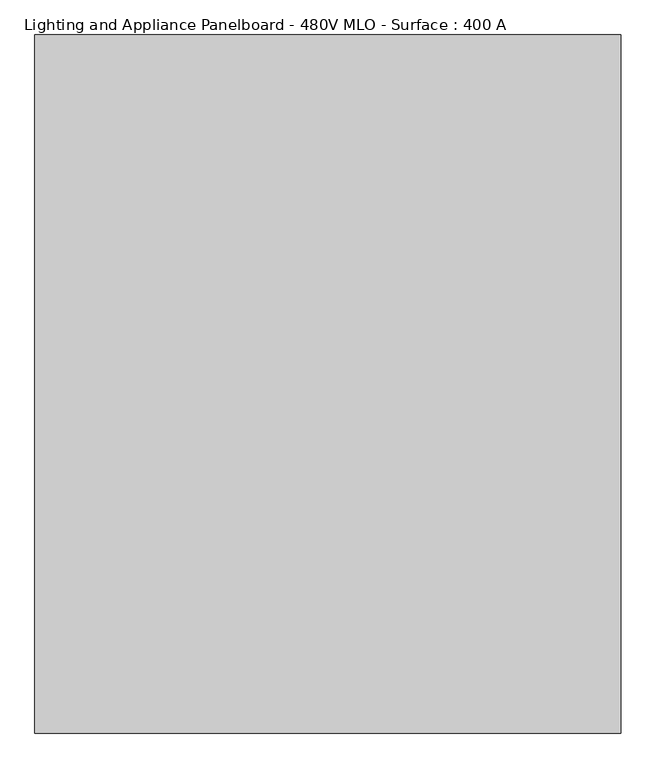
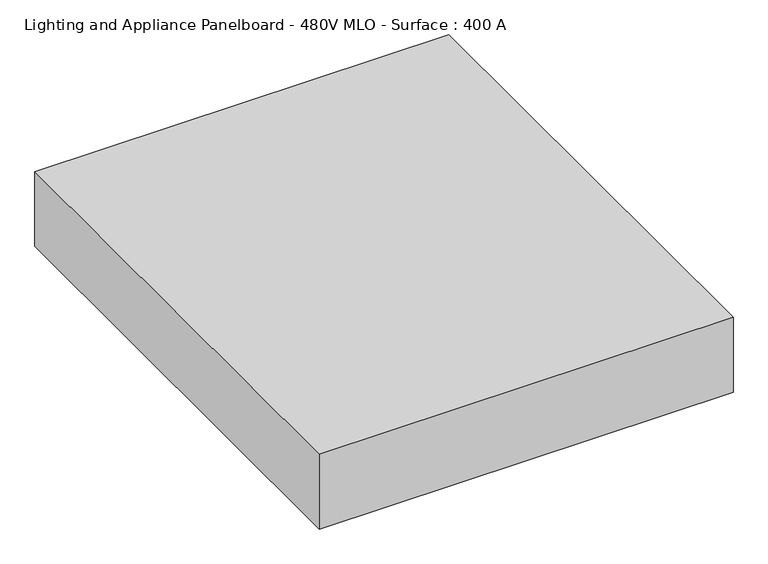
"""IFC4 building model written with IfcOpenShell, lengths in millimetres: proxy geometry, Lighting and Appliance Panelboard - 480V MLO - Surface : 400 A."""

import ifcopenshell
import ifcopenshell.guid

model = None  # the IFC model being written
_history = None  # IfcOwnerHistory: only IFC2X3 demands one
_inside = {}  # id of a spatial element -> (the spatial element, [elements in it])
_under = {}  # id of a project, library or spatial element -> (it, [spatial elements below it])
_declared = {}  # id of a project -> (the project, [libraries it declares])
_typed = {}  # id of a type object -> (the type object, [elements of that type])
_made_of = {}  # id of a material, layer set ... -> (it, [elements and type objects made of it])


def new_model(schema):
    """Start an empty IFC model of exactly this schema.

    Asked for "IFC4X3", IfcOpenShell would pick the latest addendum, in which some entities
    have other attributes; the version numbers below select the first issue.
    IFC2X3 requires an IfcOwnerHistory on every rooted entity: one is made here for all.
    """
    global model, _history
    if schema == "IFC4X3":
        model = ifcopenshell.file(schema_version=(4, 3, 0, 0))
    else:
        model = ifcopenshell.file(schema=schema)
    _inside.clear()
    _under.clear()
    _declared.clear()
    _typed.clear()
    _made_of.clear()
    _history = None
    if model.schema == "IFC2X3":
        org = make("IfcOrganization", Name="unknown")
        user = make(
            "IfcPersonAndOrganization",
            ThePerson=make("IfcPerson", FamilyName="unknown"),
            TheOrganization=org,
        )
        app = make(
            "IfcApplication",
            ApplicationDeveloper=org,
            Version="unknown",
            ApplicationFullName="unknown",
            ApplicationIdentifier="unknown",
        )
        _history = make(
            "IfcOwnerHistory",
            OwningUser=user,
            OwningApplication=app,
            ChangeAction="ADDED",
            CreationDate=0,
        )
    return model


def make(cls, **values):
    """One entity of the class cls with the attributes given. An attribute that is None is left unset."""
    return model.create_entity(
        cls, **{name: value for name, value in values.items() if value is not None}
    )


def rooted(cls, **values):
    """An entity with a GlobalId (a new one), such as an element, a storey or a relation."""
    return make(cls, GlobalId=ifcopenshell.guid.new(), OwnerHistory=_history, **values)


def si_unit(unit_type, name, prefix=None):
    """IfcSIUnit, for example si_unit("LENGTHUNIT", "METRE", prefix="MILLI")."""
    return make("IfcSIUnit", UnitType=unit_type, Prefix=prefix, Name=name)


def assignment(units):
    """IfcUnitAssignment: the units of a project."""
    return None if units is None else make("IfcUnitAssignment", Units=units)


def point(xyz):
    """IfcCartesianPoint."""
    return None if xyz is None else make("IfcCartesianPoint", Coordinates=xyz)


def direction(xyz):
    """IfcDirection."""
    return None if xyz is None else make("IfcDirection", DirectionRatios=xyz)


def frame(location, z_axis=None, x_axis=None):
    """IfcAxis2Placement3D, a coordinate frame: its origin and axes. An axis left out is left unset."""
    return make(
        "IfcAxis2Placement3D",
        Location=point(location),
        Axis=direction(z_axis),
        RefDirection=direction(x_axis),
    )


def origin():
    """The frame at (0, 0, 0) with its axes left unset."""
    return frame((0.0, 0.0, 0.0))


def origin_with_axes():
    """The frame at (0, 0, 0) with the z axis (0, 0, 1) and the x axis (1, 0, 0) written out."""
    return frame((0.0, 0.0, 0.0), z_axis=(0.0, 0.0, 1.0), x_axis=(1.0, 0.0, 0.0))


def place(relative_to, where):
    """IfcLocalPlacement: puts the frame where relative to a parent placement (None: the world)."""
    return make(
        "IfcLocalPlacement", PlacementRelTo=relative_to, RelativePlacement=where
    )


def context(
    kind, dimensions, precision=None, world=None, true_north=None, identifier=None
):
    """IfcGeometricRepresentationContext, for example the 3D "Model" context."""
    return make(
        "IfcGeometricRepresentationContext",
        ContextIdentifier=identifier,
        ContextType=kind,
        CoordinateSpaceDimension=dimensions,
        Precision=precision,
        WorldCoordinateSystem=world,
        TrueNorth=true_north,
    )


def project(units=None, contexts=None):
    """IfcProject with its units and contexts."""
    return rooted(
        "IfcProject",
        Name="project",
        RepresentationContexts=contexts,
        UnitsInContext=assignment(units),
    )


def spatial(cls, under=None, at=None, **own):
    """A site, building, storey or space (cls), placed at a placement, below another one or the project."""
    s = rooted(cls, ObjectPlacement=at, **own)
    if under is not None:
        _under.setdefault(under.id(), (under, []))[1].append(s)
    return s


def polyline(points):
    """IfcPolyline through the points."""
    return make("IfcPolyline", Points=[point(p) for p in points])


def outline(outer, holes=None, kind="AREA"):
    """IfcArbitraryClosedProfileDef: a profile drawn as a closed curve; with holes, ...WithVoids."""
    if holes is None:
        return make("IfcArbitraryClosedProfileDef", ProfileType=kind, OuterCurve=outer)
    return make(
        "IfcArbitraryProfileDefWithVoids",
        ProfileType=kind,
        OuterCurve=outer,
        InnerCurves=holes,
    )


def extrude(swept, where, along, depth):
    """IfcExtrudedAreaSolid: the profile swept, set in the frame where, extruded along a direction by depth."""
    return make(
        "IfcExtrudedAreaSolid",
        SweptArea=swept,
        Position=where,
        ExtrudedDirection=direction(along),
        Depth=depth,
    )


def shape(context_of_items, identifier, shape_type, items):
    """IfcShapeRepresentation: the items that make up one representation, for example the "Body"."""
    return make(
        "IfcShapeRepresentation",
        ContextOfItems=context_of_items,
        RepresentationIdentifier=identifier,
        RepresentationType=shape_type,
        Items=items,
    )


def source(mapping_origin, context_of_items, identifier, shape_type, items):
    """IfcRepresentationMap: a shape defined once, which mapped items show again and again."""
    return make(
        "IfcRepresentationMap",
        MappingOrigin=mapping_origin,
        MappedRepresentation=shape(context_of_items, identifier, shape_type, items),
    )


def transform(
    local_origin,
    x_axis=None,
    y_axis=None,
    z_axis=None,
    scale=None,
    scale2=None,
    scale3=None,
    uniform=True,
):
    """IfcCartesianTransformationOperator3D, or its non-uniform kind. x_axis, y_axis, z_axis: its Axis1, 2, 3."""
    if uniform:
        return make(
            "IfcCartesianTransformationOperator3D",
            Axis1=direction(x_axis),
            Axis2=direction(y_axis),
            LocalOrigin=point(local_origin),
            Scale=scale,
            Axis3=direction(z_axis),
        )
    return make(
        "IfcCartesianTransformationOperator3DnonUniform",
        Axis1=direction(x_axis),
        Axis2=direction(y_axis),
        LocalOrigin=point(local_origin),
        Scale=scale,
        Axis3=direction(z_axis),
        Scale2=scale2,
        Scale3=scale3,
    )


def mapped(mapping_source, mapping_target):
    """IfcMappedItem: shows the shape of a source again, moved by a transform."""
    return make(
        "IfcMappedItem", MappingSource=mapping_source, MappingTarget=mapping_target
    )


def made_of(thing, what):
    """Note that an element or type object is made of a material, layer set ...; save() writes the relation."""
    if what is not None:
        _made_of.setdefault(what.id(), (what, []))[1].append(thing)
    return thing


def element(
    cls,
    number,
    at=None,
    inside=None,
    cuts=None,
    type_object=None,
    material=None,
    context=None,
    identifier="Body",
    shape_type=None,
    held_by="IfcProductDefinitionShape",
    body=None,
    shapes=None,
    **own,
):
    """One element of the class cls, such as IfcWall. Its Tag is "e" and its number.

    at: its placement. inside: the storey or other place that contains it. cuts: it is an
    opening in that element (IfcRelVoidsElement). A single representation is given by context,
    identifier, shape_type and body (its items); several are given by shapes. held_by: the class
    of the entity that holds the representations. save() writes the other relations.
    """
    e = rooted(cls, Tag="e%d" % number, ObjectPlacement=at, **own)
    if body is not None:
        shapes = [shape(context, identifier, shape_type, body)]
    if shapes is not None:
        e.Representation = make(held_by, Representations=shapes)
    if inside is not None:
        _inside.setdefault(inside.id(), (inside, []))[1].append(e)
    if cuts is not None:
        rooted(
            "IfcRelVoidsElement", RelatingBuildingElement=cuts, RelatedOpeningElement=e
        )
    if type_object is not None:
        _typed.setdefault(type_object.id(), (type_object, []))[1].append(e)
    return made_of(e, material)


def aggregate(whole, parts):
    """IfcRelAggregates: a whole, such as a stair, and the parts it consists of."""
    return rooted("IfcRelAggregates", RelatingObject=whole, RelatedObjects=parts)


def save(model, path):
    """Write the relations noted so far, then the file.

    IfcRelAggregates (storeys below a building ...), IfcRelContainedInSpatialStructure (elements
    in a storey), IfcRelDefinesByType, IfcRelAssociatesMaterial and IfcRelDeclares: one each for
    every whole, place, type object, material and project.
    """
    for whole, parts in _under.values():
        aggregate(whole, parts)
    for where, things in _inside.values():
        rooted(
            "IfcRelContainedInSpatialStructure",
            RelatedElements=things,
            RelatingStructure=where,
        )
    for kind, things in _typed.values():
        rooted("IfcRelDefinesByType", RelatedObjects=things, RelatingType=kind)
    for what, things in _made_of.values():
        rooted("IfcRelAssociatesMaterial", RelatedObjects=things, RelatingMaterial=what)
    for by, libraries in _declared.values():
        rooted("IfcRelDeclares", RelatingContext=by, RelatedDefinitions=libraries)
    model.write(path)


def lighting_and_appliance_panelboard_480v_mlo_surface_400_a_c317ceb7(model_context):
    return source(origin(), model_context, "Body", "SweptSolid", [
        extrude(outline(polyline([(533.4, 1008.8725953), (533.4, -261.1274047), (-533.4, -261.1274047), (-533.4, 1008.8725953), (533.4, 1008.8725953)])), origin_with_axes(), (0.0, 0.0, 1.0), 203.2),
    ])


if __name__ == "__main__":
    model = new_model("IFC4")
    model_context = context("Model", 3, world=origin())
    ifc_project = project(units=[si_unit("LENGTHUNIT", "METRE", prefix="MILLI")], contexts=[model_context])
    site = spatial("IfcSite", under=ifc_project)
    building = spatial("IfcBuilding", under=site)
    placement = place(None, origin())
    lighting_and_appliance_panelboard_480v_mlo_surface_400_a_shape = lighting_and_appliance_panelboard_480v_mlo_surface_400_a_c317ceb7(model_context)
    element("IfcBuildingElementProxy", 1, Name="Lighting and Appliance Panelboard - 480V MLO - Surface : 400 A", ObjectType="Lighting and Appliance Panelboard - 480V MLO - Surface : 400 A", at=placement, inside=building, context=model_context, shape_type="MappedRepresentation", body=[
        mapped(lighting_and_appliance_panelboard_480v_mlo_surface_400_a_shape, transform((0.0, 0.0, 0.0), x_axis=(1.0, 0.0, 0.0), y_axis=(0.0, 1.0, 0.0), z_axis=(0.0, 0.0, 1.0))),
    ])
    save(model, "model.ifc")
